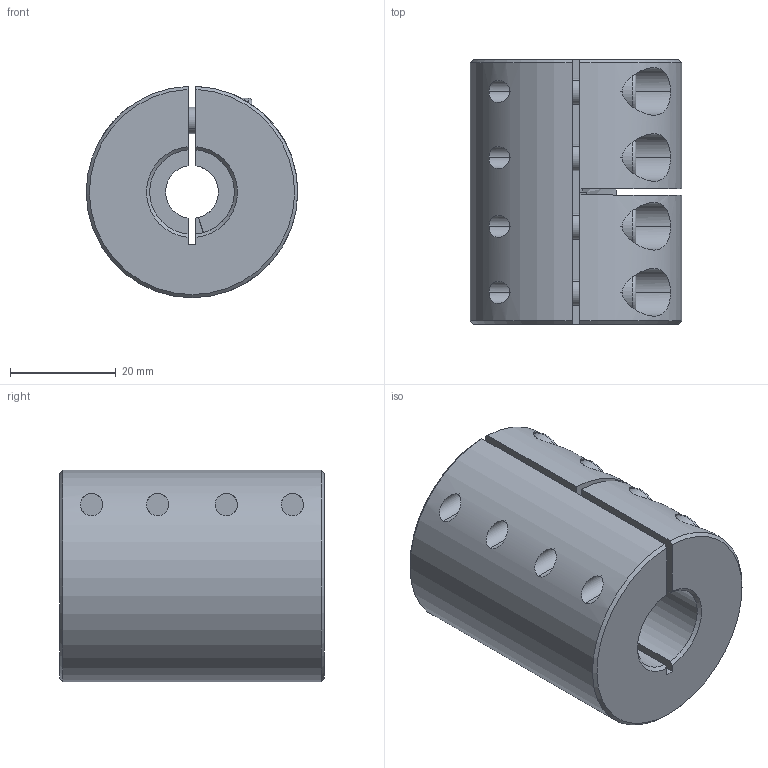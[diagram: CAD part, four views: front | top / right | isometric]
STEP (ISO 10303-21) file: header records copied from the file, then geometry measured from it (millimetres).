
FILE_DESCRIPTION (( 'STEP AP214' ), '1' );
FILE_NAME ('LL-B-D40L50-10-16½¨Ä£.STEP', '2022-07-22T00:17:14', ( '' ), ( '' ), 'SwSTEP 2.0', 'SolidWorks 2022', '' );
FILE_SCHEMA (( 'AUTOMOTIVE_DESIGN' ));
Length unit declared in the file: millimetre
Products named in the file (1): LL-B-D40L50-10-16膘耀
Bounding box: 40 x 50 x 39.99 mm (x, y, z)
Volume: 52501 mm3; surface area: 15574 mm2
Topology: 1 solids, 1 shells, 182 faces, 463 edges, 291 vertices
Faces by surface type: plane 88, cylinder 71, cone 15, torus 8
Entity records: 6015 total; most frequent: CARTESIAN_POINT 1525, DIRECTION 971, ORIENTED_EDGE 910, EDGE_CURVE 455, AXIS2_PLACEMENT_3D 377, VERTEX_POINT 291, VECTOR 217, LINE 217
